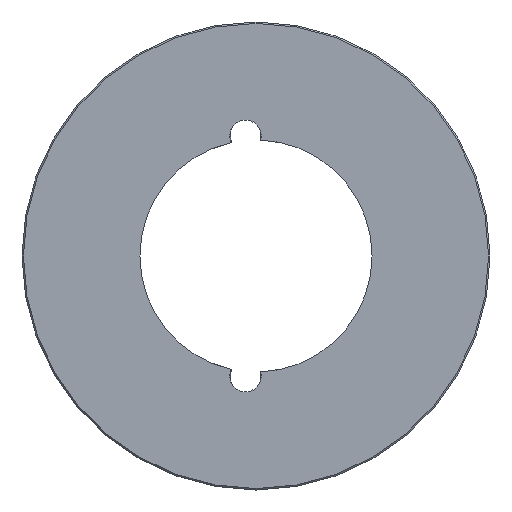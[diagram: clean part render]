
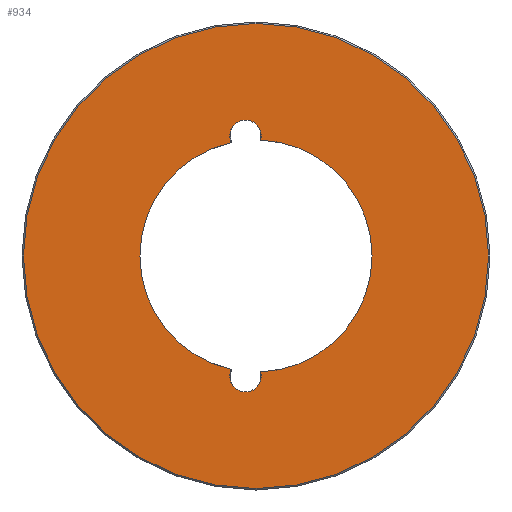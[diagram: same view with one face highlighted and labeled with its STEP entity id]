
A CAD part, left-side view. The second image highlights one B-rep face of the part: STEP entity #934.
In plain terms, the highlighted planar face has unit normal (-1, 0, 0).
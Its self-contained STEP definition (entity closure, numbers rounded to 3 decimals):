
#115=FACE_BOUND('',#353,.T.);
#125=PLANE('',#1095);
#205=FACE_OUTER_BOUND('',#352,.T.);
#352=EDGE_LOOP('',(#803));
#353=EDGE_LOOP('',(#804,#805,#806,#807));
#373=CIRCLE('',#951,39.678);
#375=CIRCLE('',#954,5.358);
#377=CIRCLE('',#957,5.358);
#381=CIRCLE('',#963,39.678);
#447=CIRCLE('',#1094,79.5);
#467=VERTEX_POINT('',#1495);
#468=VERTEX_POINT('',#1506);
#470=VERTEX_POINT('',#1521);
#472=VERTEX_POINT('',#1536);
#540=VERTEX_POINT('',#1751);
#555=EDGE_CURVE('',#467,#468,#373,.T.);
#559=EDGE_CURVE('',#467,#470,#375,.T.);
#561=EDGE_CURVE('',#472,#468,#377,.T.);
#566=EDGE_CURVE('',#472,#470,#381,.T.);
#632=EDGE_CURVE('',#540,#540,#447,.T.);
#803=ORIENTED_EDGE('',*,*,#632,.T.);
#804=ORIENTED_EDGE('',*,*,#561,.T.);
#805=ORIENTED_EDGE('',*,*,#555,.F.);
#806=ORIENTED_EDGE('',*,*,#559,.T.);
#807=ORIENTED_EDGE('',*,*,#566,.F.);
#934=ADVANCED_FACE('',(#205,#115),#125,.T.);
#951=AXIS2_PLACEMENT_3D('',#1507,#1125,#1126);
#954=AXIS2_PLACEMENT_3D('',#1533,#1131,#1132);
#957=AXIS2_PLACEMENT_3D('',#1537,#1137,#1138);
#963=AXIS2_PLACEMENT_3D('',#1555,#1149,#1150);
#1094=AXIS2_PLACEMENT_3D('',#1752,#1411,#1412);
#1095=AXIS2_PLACEMENT_3D('',#1753,#1413,#1414);
#1125=DIRECTION('center_axis',(-1.,0.,0.));
#1126=DIRECTION('ref_axis',(0.,0.,1.));
#1131=DIRECTION('center_axis',(1.,0.,0.));
#1132=DIRECTION('ref_axis',(0.,-0.962,0.274));
#1137=DIRECTION('center_axis',(1.,0.,0.));
#1138=DIRECTION('ref_axis',(0.,0.899,-0.437));
#1149=DIRECTION('center_axis',(-1.,0.,0.));
#1150=DIRECTION('ref_axis',(0.,0.,1.));
#1411=DIRECTION('center_axis',(-1.,0.,0.));
#1412=DIRECTION('ref_axis',(0.,0.,1.));
#1413=DIRECTION('center_axis',(-1.,0.,0.));
#1414=DIRECTION('ref_axis',(0.,0.,1.));
#1495=CARTESIAN_POINT('',(-63.808,-1.555,51.409));
#1506=CARTESIAN_POINT('',(-63.808,-1.555,130.705));
#1507=CARTESIAN_POINT('Origin',(-63.808,0.,91.057));
#1521=CARTESIAN_POINT('',(-63.808,8.416,52.282));
#1533=CARTESIAN_POINT('Origin',(-63.808,3.597,49.939));
#1536=CARTESIAN_POINT('',(-63.808,8.416,129.833));
#1537=CARTESIAN_POINT('Origin',(-63.808,3.597,132.175));
#1555=CARTESIAN_POINT('Origin',(-63.808,0.,91.057));
#1751=CARTESIAN_POINT('',(-63.808,0.,170.557));
#1752=CARTESIAN_POINT('Origin',(-63.808,0.,91.057));
#1753=CARTESIAN_POINT('Origin',(-63.808,0.,130.735));
